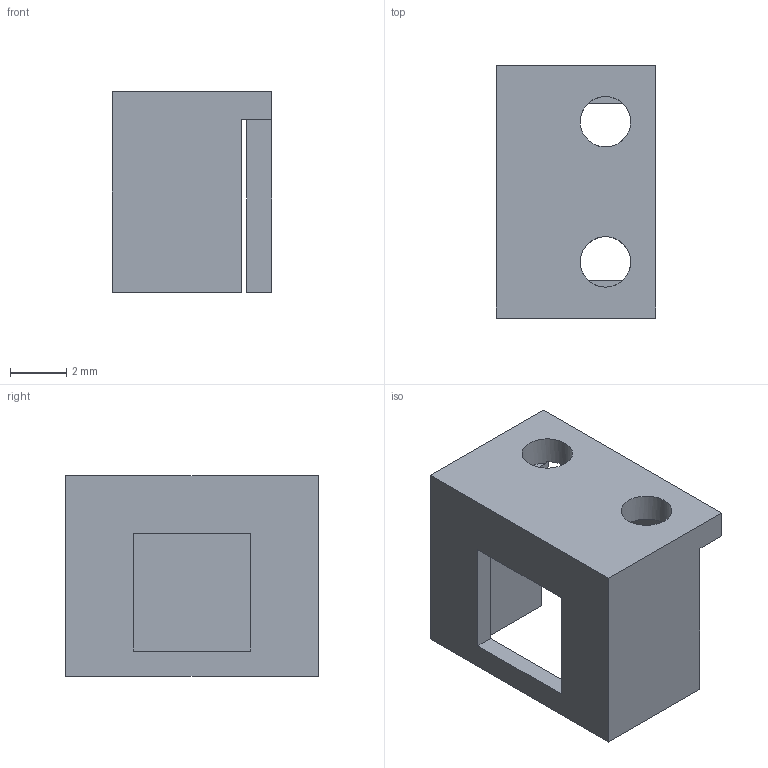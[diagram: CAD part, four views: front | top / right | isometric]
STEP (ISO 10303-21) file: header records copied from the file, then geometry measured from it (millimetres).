
FILE_DESCRIPTION(/* description */ (''),/* implementation_level */ '2;1');
FILE_NAME(/* name */ 'C28_R3_PTT_Removable_Switch_Cradle.step',/* time_stamp */ '2026-09-10T17:49:48-07:00',/* author */ (''),/* organization */ (''),/* preprocessor_version */ 'ST-DEVELOPER v20.1',/* originating_system */ 'Autodesk Translation Framework v15.8.0.0',/* authorisation */ '');
FILE_SCHEMA (('AUTOMOTIVE_DESIGN { 1 0 10303 214 3 1 1 }'));
Length unit declared in the file: millimetre
Products named in the file (1): 2026-09-10-17-49-48-680
Bounding box: 5.7 x 9 x 7.15 mm (x, y, z)
Volume: 158.1 mm3; surface area: 395.6 mm2
Topology: 1 solids, 1 shells, 30 faces, 90 edges, 60 vertices
Faces by surface type: plane 28, cylinder 2
Full cylindrical faces by diameter (mm): 1.8 x2
Entity records: 1047 total; most frequent: CARTESIAN_POINT 181, ORIENTED_EDGE 180, DIRECTION 160, EDGE_CURVE 90, LINE 82, VECTOR 82, VERTEX_POINT 60, AXIS2_PLACEMENT_3D 39
